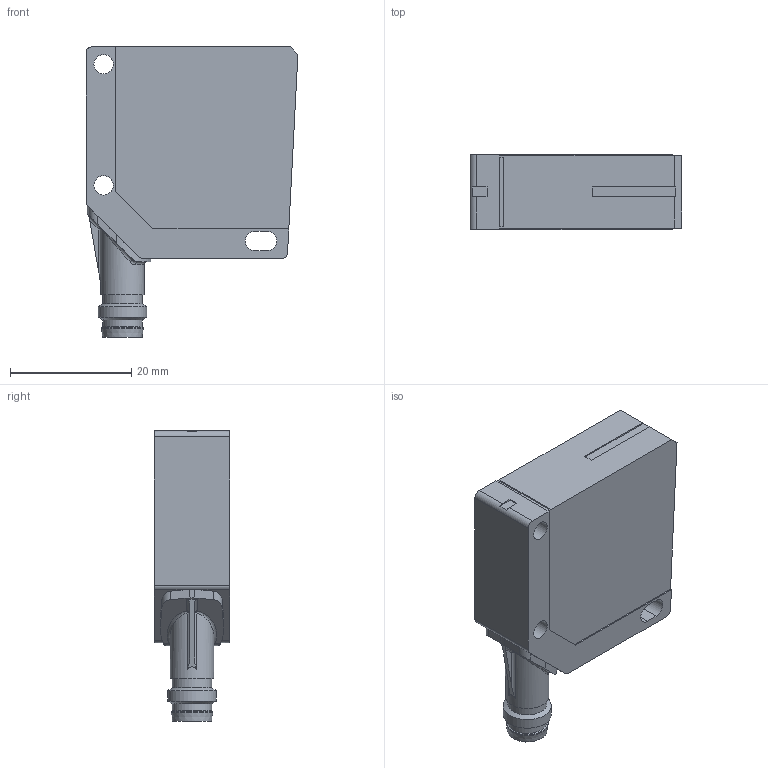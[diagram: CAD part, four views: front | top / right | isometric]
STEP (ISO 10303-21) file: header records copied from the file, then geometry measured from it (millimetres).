
FILE_DESCRIPTION( ( 'Unknown' ), '1' );
FILE_NAME( '//baumerholding.org/frauenfeld/bereich/BECH/Services/me_CAD/Solid Edge/Models/Dokumentationen/Opto/xxDM12/Vereinfachte Modelle/Neutralformate/xxDM_12_S35A.stp', 'Unknown', ( 'Unknown' ), ( 'Unknown' ), 'XStep 1.0', 'Unknown', ' ' );
FILE_SCHEMA( ( 'CONFIG_CONTROL_DESIGN' ) );
Length unit declared in the file: millimetre
Products named in the file (1): 114646
Bounding box: 35 x 12.4 x 48 mm (x, y, z)
Surface area: 4850.8 mm2 (no closed solid volume)
Topology: 0 solids, 98 shells, 98 faces, 490 edges, 470 vertices
Faces by surface type: plane 50, cylinder 33, sphere 6, cone 4, bspline 4, torus 1
Full cylindrical faces by diameter (mm): 1 x4, 3.2 x2, 5.77 x1, 6.5 x2, 6.9 x1, 7.2 x1, 8 x1
Entity records: 5192 total; most frequent: CARTESIAN_POINT 1549, DIRECTION 788, ORIENTED_EDGE 456, EDGE_CURVE 456, VERTEX_POINT 456, LINE 282, VECTOR 282, AXIS2_PLACEMENT_3D 253
